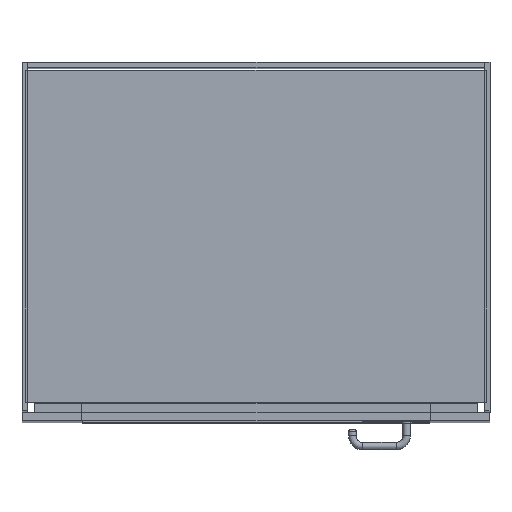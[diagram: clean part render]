
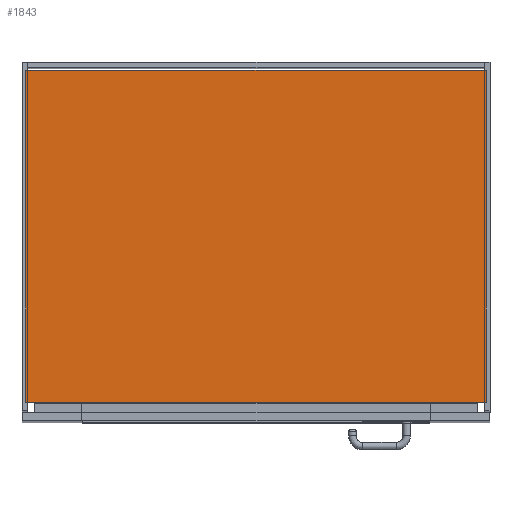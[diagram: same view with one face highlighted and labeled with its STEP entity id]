
A CAD part, top view. The second image highlights one B-rep face of the part: STEP entity #1843.
In plain terms, the highlighted planar face has unit normal (0, 0, 1).
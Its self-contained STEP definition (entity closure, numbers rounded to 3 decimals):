
#1843=ADVANCED_FACE('',(#2391),#8946,.T.);
#2391=FACE_OUTER_BOUND('',#2956,.T.);
#2956=EDGE_LOOP('',(#4462,#4463,#4464,#4465));
#4462=ORIENTED_EDGE('',*,*,#6525,.T.);
#4463=ORIENTED_EDGE('',*,*,#6526,.T.);
#4464=ORIENTED_EDGE('',*,*,#6527,.T.);
#4465=ORIENTED_EDGE('',*,*,#6528,.T.);
#6525=EDGE_CURVE('',#8270,#8271,#7650,.T.);
#6526=EDGE_CURVE('',#8271,#8272,#7651,.T.);
#6527=EDGE_CURVE('',#8272,#8273,#7652,.T.);
#6528=EDGE_CURVE('',#8273,#8270,#7653,.T.);
#7650=B_SPLINE_CURVE_WITH_KNOTS('',1,(#14145,#14146),.UNSPECIFIED.,.F.,
 .F.,(2,2),(0.,1100.),.UNSPECIFIED.);
#7651=B_SPLINE_CURVE_WITH_KNOTS('',1,(#14147,#14148),.UNSPECIFIED.,.F.,
 .F.,(2,2),(0.,810.206),.UNSPECIFIED.);
#7652=B_SPLINE_CURVE_WITH_KNOTS('',1,(#14149,#14150),.UNSPECIFIED.,.F.,
 .F.,(2,2),(0.,1100.),.UNSPECIFIED.);
#7653=B_SPLINE_CURVE_WITH_KNOTS('',1,(#14151,#14152),.UNSPECIFIED.,.F.,
 .F.,(2,2),(0.,810.206),.UNSPECIFIED.);
#8270=VERTEX_POINT('',#14133);
#8271=VERTEX_POINT('',#14134);
#8272=VERTEX_POINT('',#14135);
#8273=VERTEX_POINT('',#14136);
#8946=PLANE('',#9523);
#9523=AXIS2_PLACEMENT_3D('',#14128,#10533,$);
#10533=DIRECTION('',(0.,0.,1.));
#14128=CARTESIAN_POINT('',(13014.888,463.43,2453.943));
#14133=CARTESIAN_POINT('',(13014.888,463.43,2453.943));
#14134=CARTESIAN_POINT('',(14116.166,463.43,2453.943));
#14135=CARTESIAN_POINT('',(14116.166,1257.476,2453.943));
#14136=CARTESIAN_POINT('',(13014.888,1257.476,2453.943));
#14145=CARTESIAN_POINT('',(13014.888,463.43,2453.943));
#14146=CARTESIAN_POINT('',(14116.166,463.43,2453.943));
#14147=CARTESIAN_POINT('',(14116.166,463.43,2453.943));
#14148=CARTESIAN_POINT('',(14116.166,1257.476,2453.943));
#14149=CARTESIAN_POINT('',(14116.166,1257.476,2453.943));
#14150=CARTESIAN_POINT('',(13014.888,1257.476,2453.943));
#14151=CARTESIAN_POINT('',(13014.888,1257.476,2453.943));
#14152=CARTESIAN_POINT('',(13014.888,463.43,2453.943));
